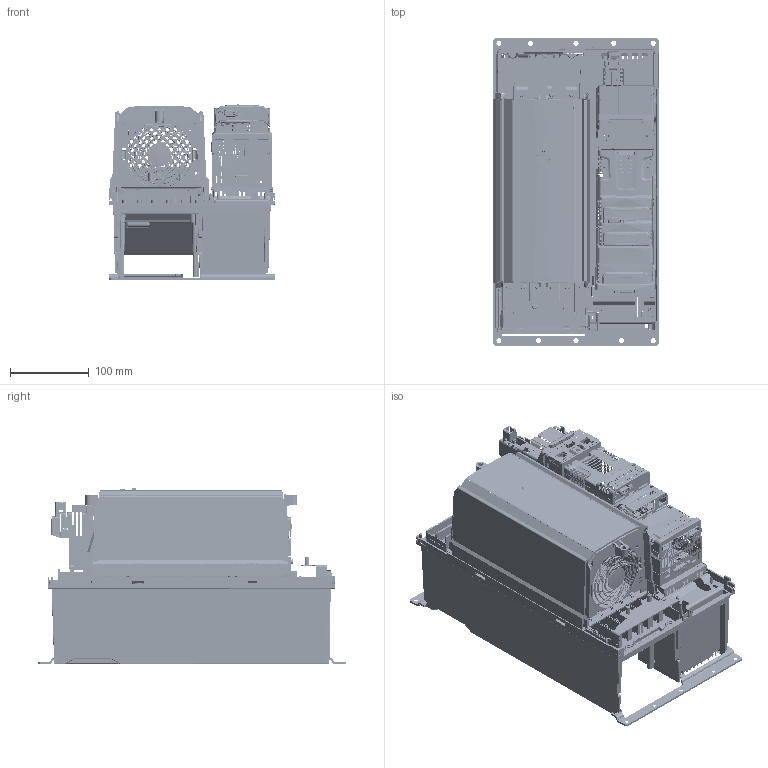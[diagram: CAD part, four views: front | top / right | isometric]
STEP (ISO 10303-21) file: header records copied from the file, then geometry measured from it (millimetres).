
FILE_DESCRIPTION((''),'2;1');
FILE_NAME('UNIM06_WITHOUT_COVERS','2013-09-02T',('lewisi02'),(''),'PRO/ENGINEER BY PARAMETRIC TECHNOLOGY CORPORATION, 2011490','PRO/ENGINEER BY PARAMETRIC TECHNOLOGY CORPORATION, 2011490','');
FILE_SCHEMA(('CONFIG_CONTROL_DESIGN'));
Products named in the file (1): UNIM06_WITHOUT_COVERS
Bounding box: 210.31 x 390.75 x 224.12 mm (x, y, z)
Surface area: 935266.6 mm2 (no closed solid volume)
Topology: 0 solids, 726 shells, 3213 faces, 26705 edges, 23750 vertices
Faces by surface type: plane 1865, cylinder 690, bspline 284, cone 159, torus 154, sphere 61
Entity records: 291279 total; most frequent: CARTESIAN_POINT 112931, DIRECTION 30802, ORIENTED_EDGE 30795, EDGE_CURVE 26700, VERTEX_POINT 23751, VECTOR 18242, LINE 18242, AXIS2_PLACEMENT_3D 6280
